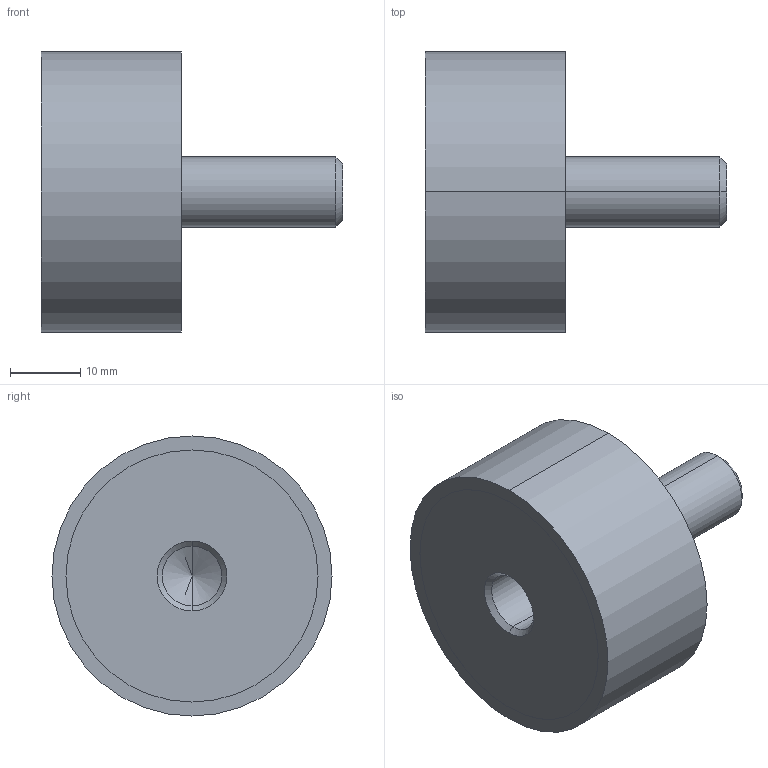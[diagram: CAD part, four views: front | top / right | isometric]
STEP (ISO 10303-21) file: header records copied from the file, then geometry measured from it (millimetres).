
FILE_DESCRIPTION (( 'STEP AP214' ), '1' );
FILE_NAME ('351-40-20-M10-ES-40.step', '2025-07-23T09:58:37', ( '' ), ( '' ), 'SwSTEP 2.0', 'SolidWorks 2022', '' );
FILE_SCHEMA (( 'AUTOMOTIVE_DESIGN' ));
Length unit declared in the file: millimetre
Products named in the file (1): 351-40-20-M10-ES-40
Bounding box: 43 x 40 x 40 mm (x, y, z)
Volume: 26332.6 mm3; surface area: 5975.7 mm2
Topology: 1 solids, 1 shells, 24 faces, 48 edges, 29 vertices
Faces by surface type: cylinder 12, cone 6, plane 6
Entity records: 740 total; most frequent: DIRECTION 124, CARTESIAN_POINT 100, ORIENTED_EDGE 92, AXIS2_PLACEMENT_3D 53, EDGE_CURVE 46, VERTEX_POINT 29, EDGE_LOOP 29, CIRCLE 28
